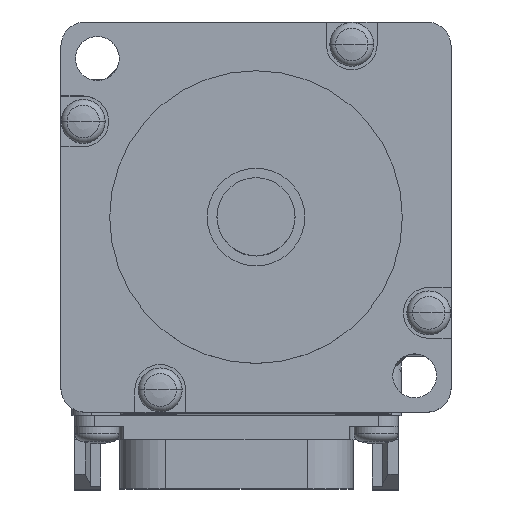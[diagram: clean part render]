
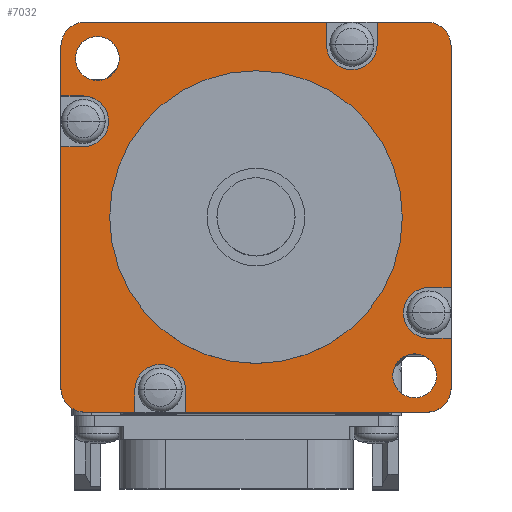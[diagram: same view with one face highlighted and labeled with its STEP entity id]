
A CAD part, top view. The second image highlights one B-rep face of the part: STEP entity #7032.
In plain terms, the highlighted planar face has unit normal (0, 0, 1).
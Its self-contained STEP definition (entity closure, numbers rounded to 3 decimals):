
#29=CARTESIAN_POINT('',(17.5,17.5,0.));
#30=DIRECTION('',(0.,0.,-1.));
#31=DIRECTION('',(0.,1.,0.));
#32=AXIS2_PLACEMENT_3D('',#29,#30,#31);
#34=CARTESIAN_POINT('',(17.711,-9.817,0.));
#35=DIRECTION('',(0.,0.,1.));
#36=DIRECTION('',(0.,1.,0.));
#37=AXIS2_PLACEMENT_3D('',#34,#35,#36);
#39=CARTESIAN_POINT('',(17.5,-17.5,0.));
#40=DIRECTION('',(0.,0.,-1.));
#41=DIRECTION('',(1.,0.,0.));
#42=AXIS2_PLACEMENT_3D('',#39,#40,#41);
#44=CARTESIAN_POINT('',(-9.817,-17.711,0.));
#45=DIRECTION('',(0.,0.,1.));
#46=DIRECTION('',(1.,0.,0.));
#47=AXIS2_PLACEMENT_3D('',#44,#45,#46);
#49=CARTESIAN_POINT('',(-17.5,-17.5,0.));
#50=DIRECTION('',(0.,0.,-1.));
#51=DIRECTION('',(0.,-1.,0.));
#52=AXIS2_PLACEMENT_3D('',#49,#50,#51);
#54=CARTESIAN_POINT('',(-17.711,9.817,0.));
#55=DIRECTION('',(0.,0.,1.));
#56=DIRECTION('',(0.,-1.,0.));
#57=AXIS2_PLACEMENT_3D('',#54,#55,#56);
#59=CARTESIAN_POINT('',(-17.5,17.5,0.));
#60=DIRECTION('',(0.,0.,-1.));
#61=DIRECTION('',(-1.,0.,0.));
#62=AXIS2_PLACEMENT_3D('',#59,#60,#61);
#64=CARTESIAN_POINT('',(9.817,17.711,0.));
#65=DIRECTION('',(0.,0.,1.));
#66=DIRECTION('',(-1.,0.,0.));
#67=AXIS2_PLACEMENT_3D('',#64,#65,#66);
#69=CARTESIAN_POINT('',(16.263,-16.263,0.));
#70=DIRECTION('',(0.,0.,1.));
#71=DIRECTION('',(0.,-1.,0.));
#72=AXIS2_PLACEMENT_3D('',#69,#70,#71);
#74=CARTESIAN_POINT('',(16.263,-16.263,0.));
#75=DIRECTION('',(0.,0.,1.));
#76=DIRECTION('',(0.,1.,0.));
#77=AXIS2_PLACEMENT_3D('',#74,#75,#76);
#79=CARTESIAN_POINT('',(-16.263,16.263,0.));
#80=DIRECTION('',(0.,0.,1.));
#81=DIRECTION('',(0.,1.,0.));
#82=AXIS2_PLACEMENT_3D('',#79,#80,#81);
#84=CARTESIAN_POINT('',(-16.263,16.263,0.));
#85=DIRECTION('',(0.,0.,1.));
#86=DIRECTION('',(0.,-1.,0.));
#87=AXIS2_PLACEMENT_3D('',#84,#85,#86);
#89=CARTESIAN_POINT('',(0.,0.,0.));
#90=DIRECTION('',(0.,0.,1.));
#91=DIRECTION('',(-1.,0.,0.));
#92=AXIS2_PLACEMENT_3D('',#89,#90,#91);
#94=CARTESIAN_POINT('',(0.,0.,0.));
#95=DIRECTION('',(0.,0.,1.));
#96=DIRECTION('',(1.,0.,0.));
#97=AXIS2_PLACEMENT_3D('',#94,#95,#96);
#131=DIRECTION('',(-1.,0.,0.));
#132=VECTOR('',#131,5.083);
#133=CARTESIAN_POINT('',(17.5,20.,0.));
#134=LINE('',#133,#132);
#135=DIRECTION('',(-1.,0.,0.));
#136=VECTOR('',#135,24.717);
#137=CARTESIAN_POINT('',(7.217,20.,0.));
#138=LINE('',#137,#136);
#315=DIRECTION('',(0.,-1.,0.));
#316=VECTOR('',#315,5.083);
#317=CARTESIAN_POINT('',(-20.,17.5,0.));
#318=LINE('',#317,#316);
#319=DIRECTION('',(0.,-1.,0.));
#320=VECTOR('',#319,24.717);
#321=CARTESIAN_POINT('',(-20.,7.217,0.));
#322=LINE('',#321,#320);
#732=DIRECTION('',(1.,0.,0.));
#733=VECTOR('',#732,5.083);
#734=CARTESIAN_POINT('',(-17.5,-20.,0.));
#735=LINE('',#734,#733);
#736=DIRECTION('',(1.,0.,0.));
#737=VECTOR('',#736,24.717);
#738=CARTESIAN_POINT('',(-7.217,-20.,0.));
#739=LINE('',#738,#737);
#838=DIRECTION('',(0.,1.,0.));
#839=VECTOR('',#838,5.083);
#840=CARTESIAN_POINT('',(20.,-17.5,0.));
#841=LINE('',#840,#839);
#842=DIRECTION('',(0.,1.,0.));
#843=VECTOR('',#842,24.717);
#844=CARTESIAN_POINT('',(20.,-7.217,0.));
#845=LINE('',#844,#843);
#3920=DIRECTION('',(-1.,0.,0.));
#3921=VECTOR('',#3920,2.289);
#3922=CARTESIAN_POINT('',(20.,-12.417,0.));
#3923=LINE('',#3922,#3921);
#3936=DIRECTION('',(1.,0.,0.));
#3937=VECTOR('',#3936,2.289);
#3938=CARTESIAN_POINT('',(17.711,-7.217,0.));
#3939=LINE('',#3938,#3937);
#4561=DIRECTION('',(0.,1.,0.));
#4562=VECTOR('',#4561,2.289);
#4563=CARTESIAN_POINT('',(-12.417,-20.,0.));
#4564=LINE('',#4563,#4562);
#4577=DIRECTION('',(0.,-1.,0.));
#4578=VECTOR('',#4577,2.289);
#4579=CARTESIAN_POINT('',(-7.217,-17.711,0.));
#4580=LINE('',#4579,#4578);
#5150=DIRECTION('',(1.,0.,0.));
#5151=VECTOR('',#5150,2.289);
#5152=CARTESIAN_POINT('',(-20.,12.417,0.));
#5153=LINE('',#5152,#5151);
#5166=DIRECTION('',(-1.,0.,0.));
#5167=VECTOR('',#5166,2.289);
#5168=CARTESIAN_POINT('',(-17.711,7.217,0.));
#5169=LINE('',#5168,#5167);
#5257=DIRECTION('',(0.,-1.,0.));
#5258=VECTOR('',#5257,2.289);
#5259=CARTESIAN_POINT('',(12.417,20.,0.));
#5260=LINE('',#5259,#5258);
#5273=DIRECTION('',(0.,1.,0.));
#5274=VECTOR('',#5273,2.289);
#5275=CARTESIAN_POINT('',(7.217,17.711,0.));
#5276=LINE('',#5275,#5274);
#5406=CARTESIAN_POINT('',(-15.,0.,0.));
#5407=VERTEX_POINT('',#5406);
#5408=CARTESIAN_POINT('',(15.,0.,0.));
#5409=VERTEX_POINT('',#5408);
#5410=CARTESIAN_POINT('',(17.5,20.,0.));
#5411=CARTESIAN_POINT('',(20.,17.5,0.));
#5412=VERTEX_POINT('',#5410);
#5413=VERTEX_POINT('',#5411);
#5414=CARTESIAN_POINT('',(17.711,-7.217,0.));
#5415=CARTESIAN_POINT('',(17.711,-12.417,0.));
#5416=VERTEX_POINT('',#5414);
#5417=VERTEX_POINT('',#5415);
#5418=CARTESIAN_POINT('',(20.,-17.5,0.));
#5419=CARTESIAN_POINT('',(17.5,-20.,0.));
#5420=VERTEX_POINT('',#5418);
#5421=VERTEX_POINT('',#5419);
#5422=CARTESIAN_POINT('',(-7.217,-17.711,0.));
#5423=CARTESIAN_POINT('',(-12.417,-17.711,0.));
#5424=VERTEX_POINT('',#5422);
#5425=VERTEX_POINT('',#5423);
#5426=CARTESIAN_POINT('',(-17.5,-20.,0.));
#5427=CARTESIAN_POINT('',(-20.,-17.5,0.));
#5428=VERTEX_POINT('',#5426);
#5429=VERTEX_POINT('',#5427);
#5430=CARTESIAN_POINT('',(-17.711,7.217,0.));
#5431=CARTESIAN_POINT('',(-17.711,12.417,0.));
#5432=VERTEX_POINT('',#5430);
#5433=VERTEX_POINT('',#5431);
#5434=CARTESIAN_POINT('',(-20.,17.5,0.));
#5435=CARTESIAN_POINT('',(-17.5,20.,0.));
#5436=VERTEX_POINT('',#5434);
#5437=VERTEX_POINT('',#5435);
#5438=CARTESIAN_POINT('',(7.217,17.711,0.));
#5439=CARTESIAN_POINT('',(12.417,17.711,0.));
#5440=VERTEX_POINT('',#5438);
#5441=VERTEX_POINT('',#5439);
#5442=CARTESIAN_POINT('',(16.263,-18.513,0.));
#5443=CARTESIAN_POINT('',(16.263,-14.013,0.));
#5444=VERTEX_POINT('',#5442);
#5445=VERTEX_POINT('',#5443);
#5446=CARTESIAN_POINT('',(-16.263,18.513,0.));
#5447=CARTESIAN_POINT('',(-16.263,14.013,0.));
#5448=VERTEX_POINT('',#5446);
#5449=VERTEX_POINT('',#5447);
#5490=CARTESIAN_POINT('',(12.417,20.,0.));
#5491=VERTEX_POINT('',#5490);
#5492=CARTESIAN_POINT('',(7.217,20.,0.));
#5493=VERTEX_POINT('',#5492);
#5563=CARTESIAN_POINT('',(-20.,12.417,0.));
#5564=VERTEX_POINT('',#5563);
#5565=CARTESIAN_POINT('',(-20.,7.217,0.));
#5566=VERTEX_POINT('',#5565);
#5674=CARTESIAN_POINT('',(20.,-12.417,0.));
#5675=VERTEX_POINT('',#5674);
#5676=CARTESIAN_POINT('',(20.,-7.217,0.));
#5677=VERTEX_POINT('',#5676);
#5855=CARTESIAN_POINT('',(-12.417,-20.,0.));
#5856=VERTEX_POINT('',#5855);
#5857=CARTESIAN_POINT('',(-7.217,-20.,0.));
#5858=VERTEX_POINT('',#5857);
#6961=CARTESIAN_POINT('',(0.,0.,0.));
#6962=DIRECTION('',(0.,0.,1.));
#6963=DIRECTION('',(1.,0.,0.));
#6964=AXIS2_PLACEMENT_3D('',#6961,#6962,#6963);
#6965=PLANE('',#6964);
#6967=ORIENTED_EDGE('',*,*,#6966,.T.);
#6969=ORIENTED_EDGE('',*,*,#6968,.F.);
#6971=ORIENTED_EDGE('',*,*,#6970,.F.);
#6973=ORIENTED_EDGE('',*,*,#6972,.T.);
#6975=ORIENTED_EDGE('',*,*,#6974,.F.);
#6977=ORIENTED_EDGE('',*,*,#6976,.F.);
#6979=ORIENTED_EDGE('',*,*,#6978,.T.);
#6981=ORIENTED_EDGE('',*,*,#6980,.F.);
#6983=ORIENTED_EDGE('',*,*,#6982,.F.);
#6985=ORIENTED_EDGE('',*,*,#6984,.T.);
#6987=ORIENTED_EDGE('',*,*,#6986,.F.);
#6989=ORIENTED_EDGE('',*,*,#6988,.F.);
#6991=ORIENTED_EDGE('',*,*,#6990,.T.);
#6993=ORIENTED_EDGE('',*,*,#6992,.F.);
#6995=ORIENTED_EDGE('',*,*,#6994,.F.);
#6997=ORIENTED_EDGE('',*,*,#6996,.T.);
#6999=ORIENTED_EDGE('',*,*,#6998,.F.);
#7001=ORIENTED_EDGE('',*,*,#7000,.F.);
#7003=ORIENTED_EDGE('',*,*,#7002,.T.);
#7005=ORIENTED_EDGE('',*,*,#7004,.F.);
#7007=ORIENTED_EDGE('',*,*,#7006,.F.);
#7009=ORIENTED_EDGE('',*,*,#7008,.T.);
#7011=ORIENTED_EDGE('',*,*,#7010,.F.);
#7013=ORIENTED_EDGE('',*,*,#7012,.F.);
#7014=EDGE_LOOP('',(#6967,#6969,#6971,#6973,#6975,#6977,#6979,#6981,#6983,#6985,
#6987,#6989,#6991,#6993,#6995,#6997,#6999,#7001,#7003,#7005,#7007,#7009,#7011,
#7013));
#7015=FACE_OUTER_BOUND('',#7014,.F.);
#7017=ORIENTED_EDGE('',*,*,#7016,.T.);
#7019=ORIENTED_EDGE('',*,*,#7018,.T.);
#7020=EDGE_LOOP('',(#7017,#7019));
#7021=FACE_BOUND('',#7020,.F.);
#7023=ORIENTED_EDGE('',*,*,#7022,.T.);
#7025=ORIENTED_EDGE('',*,*,#7024,.T.);
#7026=EDGE_LOOP('',(#7023,#7025));
#7027=FACE_BOUND('',#7026,.F.);
#7028=ORIENTED_EDGE('',*,*,#6941,.T.);
#7029=ORIENTED_EDGE('',*,*,#6955,.T.);
#7030=EDGE_LOOP('',(#7028,#7029));
#7031=FACE_BOUND('',#7030,.F.);
#7032=ADVANCED_FACE('',(#7015,#7021,#7027,#7031),#6965,.T.);
#33=CIRCLE('',#32,2.5);
#38=CIRCLE('',#37,2.6);
#43=CIRCLE('',#42,2.5);
#48=CIRCLE('',#47,2.6);
#53=CIRCLE('',#52,2.5);
#58=CIRCLE('',#57,2.6);
#63=CIRCLE('',#62,2.5);
#68=CIRCLE('',#67,2.6);
#73=CIRCLE('',#72,2.25);
#78=CIRCLE('',#77,2.25);
#83=CIRCLE('',#82,2.25);
#88=CIRCLE('',#87,2.25);
#93=CIRCLE('',#92,15.);
#98=CIRCLE('',#97,15.);
#6941=EDGE_CURVE('',#5407,#5409,#93,.T.);
#6955=EDGE_CURVE('',#5409,#5407,#98,.T.);
#6966=EDGE_CURVE('',#5412,#5413,#33,.T.);
#6968=EDGE_CURVE('',#5677,#5413,#845,.T.);
#6970=EDGE_CURVE('',#5416,#5677,#3939,.T.);
#6972=EDGE_CURVE('',#5416,#5417,#38,.T.);
#6974=EDGE_CURVE('',#5675,#5417,#3923,.T.);
#6976=EDGE_CURVE('',#5420,#5675,#841,.T.);
#6978=EDGE_CURVE('',#5420,#5421,#43,.T.);
#6980=EDGE_CURVE('',#5858,#5421,#739,.T.);
#6982=EDGE_CURVE('',#5424,#5858,#4580,.T.);
#6984=EDGE_CURVE('',#5424,#5425,#48,.T.);
#6986=EDGE_CURVE('',#5856,#5425,#4564,.T.);
#6988=EDGE_CURVE('',#5428,#5856,#735,.T.);
#6990=EDGE_CURVE('',#5428,#5429,#53,.T.);
#6992=EDGE_CURVE('',#5566,#5429,#322,.T.);
#6994=EDGE_CURVE('',#5432,#5566,#5169,.T.);
#6996=EDGE_CURVE('',#5432,#5433,#58,.T.);
#6998=EDGE_CURVE('',#5564,#5433,#5153,.T.);
#7000=EDGE_CURVE('',#5436,#5564,#318,.T.);
#7002=EDGE_CURVE('',#5436,#5437,#63,.T.);
#7004=EDGE_CURVE('',#5493,#5437,#138,.T.);
#7006=EDGE_CURVE('',#5440,#5493,#5276,.T.);
#7008=EDGE_CURVE('',#5440,#5441,#68,.T.);
#7010=EDGE_CURVE('',#5491,#5441,#5260,.T.);
#7012=EDGE_CURVE('',#5412,#5491,#134,.T.);
#7016=EDGE_CURVE('',#5444,#5445,#73,.T.);
#7018=EDGE_CURVE('',#5445,#5444,#78,.T.);
#7022=EDGE_CURVE('',#5448,#5449,#83,.T.);
#7024=EDGE_CURVE('',#5449,#5448,#88,.T.);
